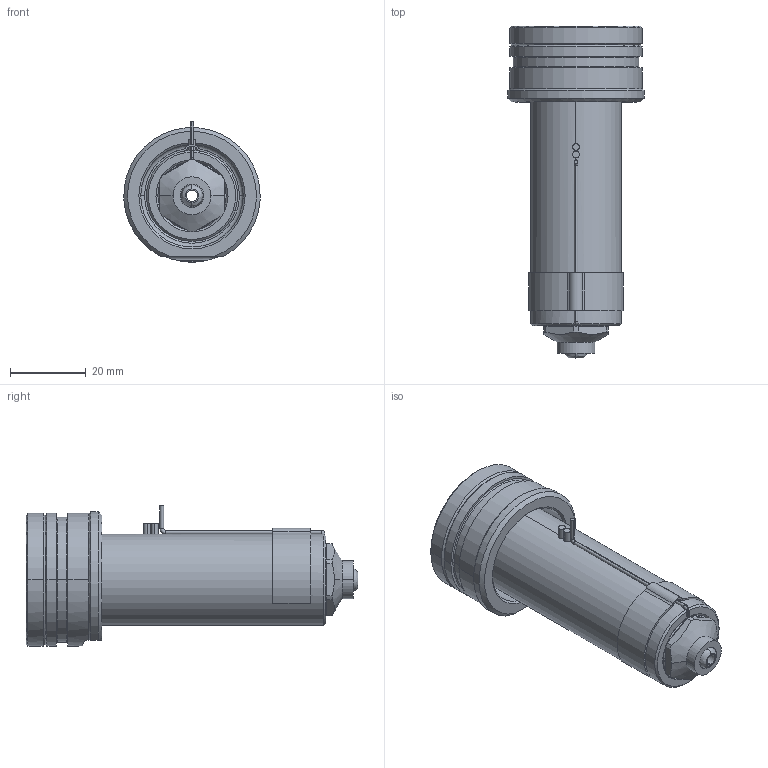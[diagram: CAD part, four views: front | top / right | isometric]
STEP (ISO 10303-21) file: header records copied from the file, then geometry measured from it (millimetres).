
FILE_DESCRIPTION((''),'2;1');
FILE_NAME('EO06_VG-BL_WR_070_SW','2024-02-19T13:02:26',('sundharh'),(''),'CREO PARAMETRIC BY PTC INC, 2023154','CREO PARAMETRIC BY PTC INC, 2023154','');
FILE_SCHEMA(('CONFIG_CONTROL_DESIGN'));
Length unit declared in the file: millimetre
Products named in the file (1): EO06_VG-BL_WR_070_SW
Bounding box: 35.93 x 87.5 x 37 mm (x, y, z)
Volume: 42919.1 mm3; surface area: 13755.4 mm2
Topology: 2 solids, 2 shells, 199 faces, 493 edges, 296 vertices
Faces by surface type: cylinder 76, plane 42, cone 36, torus 27, bspline 16, sphere 2
Entity records: 6782 total; most frequent: CARTESIAN_POINT 2003, DIRECTION 1064, ORIENTED_EDGE 974, EDGE_CURVE 487, AXIS2_PLACEMENT_3D 449, VERTEX_POINT 296, CIRCLE 266, EDGE_LOOP 213
